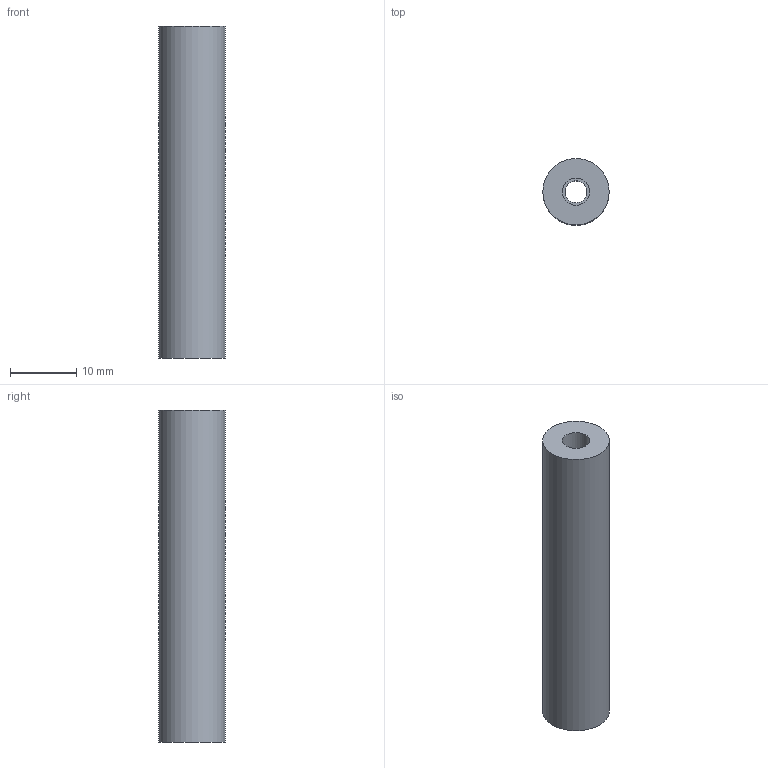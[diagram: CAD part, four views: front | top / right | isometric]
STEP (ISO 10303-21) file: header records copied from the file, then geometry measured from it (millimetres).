
FILE_DESCRIPTION(('Open CASCADE Model'),'2;1');
FILE_NAME('Open CASCADE Shape Model','2026-10-21T12:47:56',('Author'),( 'Open CASCADE'),'Open CASCADE STEP processor 7.9','Open CASCADE 7.9' ,'Unknown');
FILE_SCHEMA(('AUTOMOTIVE_DESIGN { 1 0 10303 214 1 1 1 1 }'));
Length unit declared in the file: millimetre
Products named in the file (1): Open CASCADE STEP translator 7.9 12
Bounding box: 10 x 10 x 50 mm (x, y, z)
Volume: 3443.5 mm3; surface area: 2259.3 mm2
Topology: 1 solids, 1 shells, 8 faces, 12 edges, 8 vertices
Faces by surface type: cylinder 4, plane 4
Full cylindrical faces by diameter (mm): 3.3 x1, 4.1 x2, 10 x1
Entity records: 354 total; most frequent: DIRECTION 62, CARTESIAN_POINT 53, ORIENTED_EDGE 24, PCURVE 24, DEFINITIONAL_REPRESENTATION 24, LINE 20, VECTOR 20, AXIS2_PLACEMENT_3D 17
